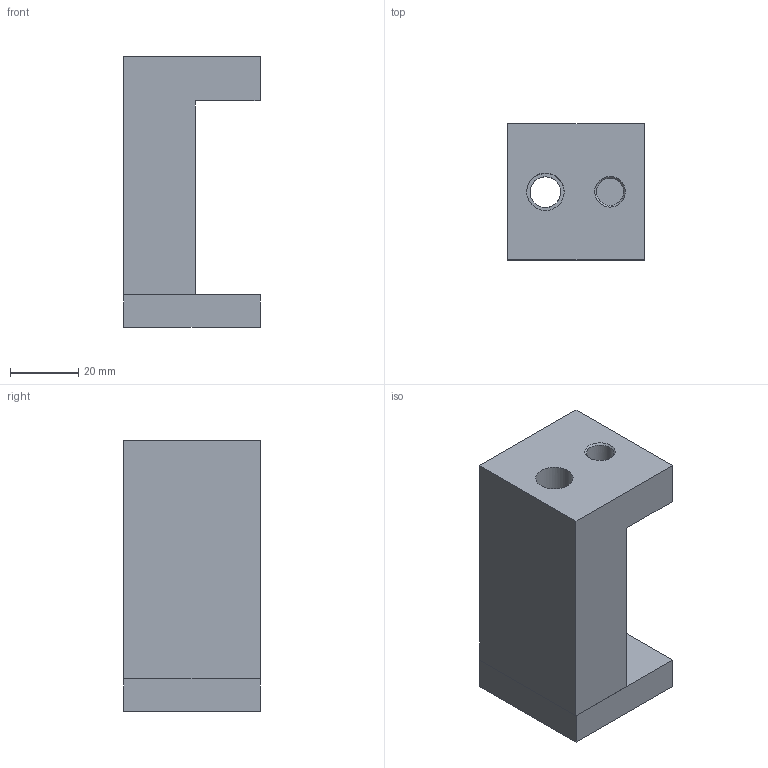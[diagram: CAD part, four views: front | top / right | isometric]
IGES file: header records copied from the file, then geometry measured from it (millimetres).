
Global section: file name: 08.58; native system: Autodesk Inventor 2016; preprocessor: unknown; author: CAD5; date: 20160909.155901; units: millimetre
Bounding box: 40 x 40 x 79.5 mm (x, y, z)
Volume: 75412 mm3; surface area: 21246.6 mm2
Topology: 4 solids, 4 shells, 58 faces, 156 edges, 110 vertices
Faces by surface type: bspline 58
